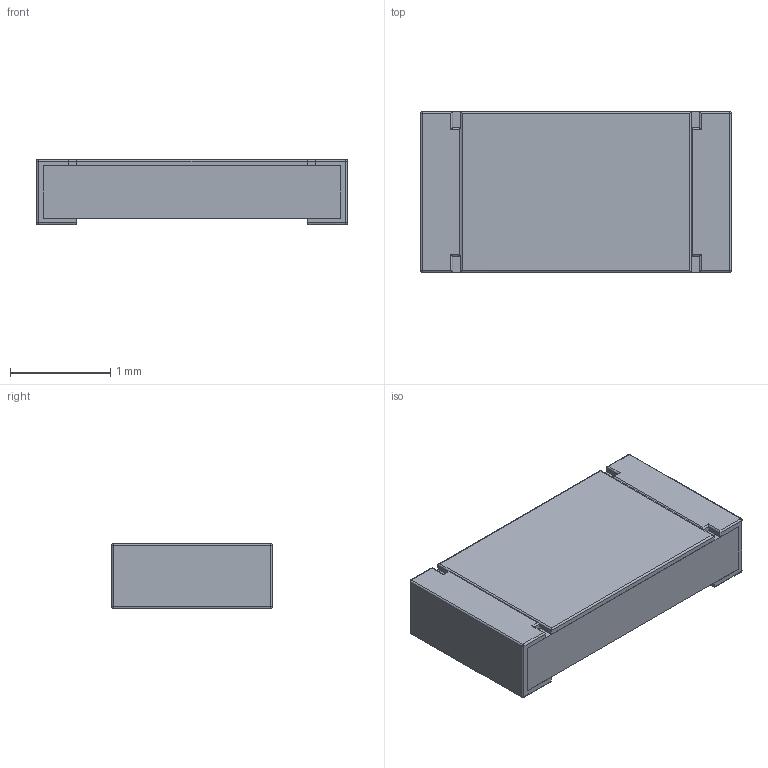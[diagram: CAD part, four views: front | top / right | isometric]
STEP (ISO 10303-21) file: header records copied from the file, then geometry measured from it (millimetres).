
FILE_DESCRIPTION (( 'STEP AP214' ), '1' );
FILE_NAME ( 'RESC310X160X65L40.STEP', '2020-12-02T09:39:18', ( '' ), ( '' ), 'Part was generated with the free Library Expert Lite available at www.PCBLibraries.com. Removing line will violate the End User License Agreement.', '©2017 PCB Libraries, Inc.', '' );
FILE_SCHEMA (( 'AUTOMOTIVE_DESIGN' ));
Length unit declared in the file: millimetre
Products named in the file (1): RESC310X160X65L40
Bounding box: 3.1 x 1.6 x 0.65 mm (x, y, z)
Volume: 3 mm3; surface area: 31 mm2
Topology: 4 solids, 4 shells, 80 faces, 180 edges, 100 vertices
Faces by surface type: plane 40, cylinder 32, sphere 8
Entity records: 2377 total; most frequent: CARTESIAN_POINT 413, ORIENTED_EDGE 344, DIRECTION 338, EDGE_CURVE 172, VECTOR 128, LINE 128, AXIS2_PLACEMENT_3D 105, VERTEX_POINT 100
